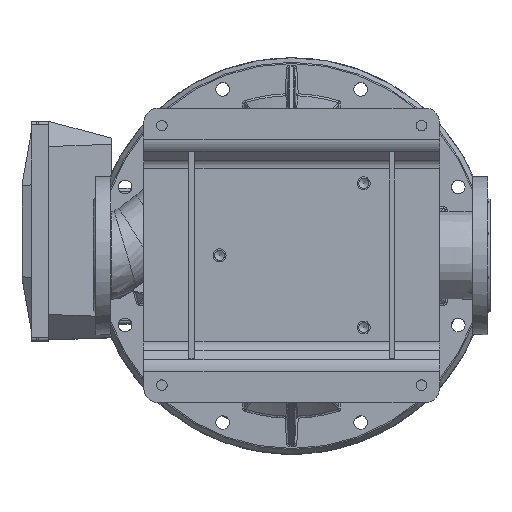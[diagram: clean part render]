
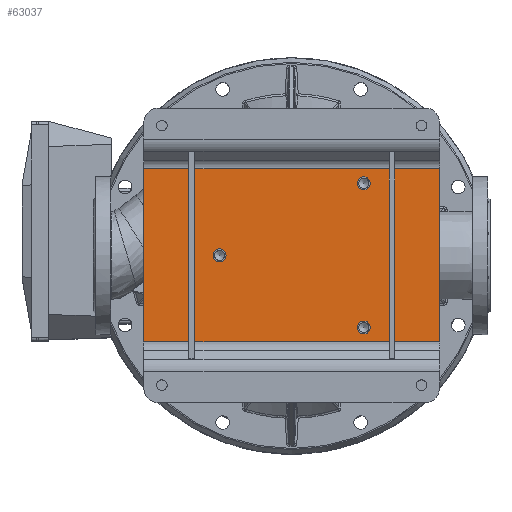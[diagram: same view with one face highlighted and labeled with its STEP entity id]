
A CAD part, top view. The second image highlights one B-rep face of the part: STEP entity #63037.
In plain terms, the highlighted planar face has unit normal (0, 0, 1) as drawn and (0, -1, 0) by its records, which use the part's own axes.
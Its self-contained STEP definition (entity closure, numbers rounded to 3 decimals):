
#1999 = VERTEX_POINT ( 'NONE', #63736 ) ;
#3575 = DIRECTION ( 'NONE',  ( 0., -1., 0. ) ) ;
#4399 = EDGE_CURVE ( 'NONE', #1999, #52443, #19354, .T. ) ;
#4715 = VECTOR ( 'NONE', #50558, 1000. ) ;
#5785 = CARTESIAN_POINT ( 'NONE',  ( 0., -8., -109. ) ) ;
#5969 = DIRECTION ( 'NONE',  ( 0., 0., -1. ) ) ;
#5994 = CARTESIAN_POINT ( 'NONE',  ( -120., -8., -205. ) ) ;
#6252 = VECTOR ( 'NONE', #52459, 1000. ) ;
#7014 = CARTESIAN_POINT ( 'NONE',  ( -120., -8., 205. ) ) ;
#7230 = EDGE_CURVE ( 'NONE', #52443, #32517, #62389, .T. ) ;
#9520 = VECTOR ( 'NONE', #56629, 1000. ) ;
#9717 = DIRECTION ( 'NONE',  ( 0., 0., -1. ) ) ;
#9969 = ORIENTED_EDGE ( 'NONE', *, *, #18208, .F. ) ;
#10833 = CARTESIAN_POINT ( 'NONE',  ( -120., -8., -205. ) ) ;
#10996 = DIRECTION ( 'NONE',  ( 0., 0., -1. ) ) ;
#12400 = DIRECTION ( 'NONE',  ( 0., 0., -1. ) ) ;
#13857 = AXIS2_PLACEMENT_3D ( 'NONE', #63603, #3575, #10996 ) ;
#15052 = FACE_OUTER_BOUND ( 'NONE', #57706, .T. ) ;
#15233 = VERTEX_POINT ( 'NONE', #32114 ) ;
#17276 = EDGE_CURVE ( 'NONE', #15233, #15233, #28990, .T. ) ;
#18208 = EDGE_CURVE ( 'NONE', #49031, #49031, #60073, .T. ) ;
#19010 = CARTESIAN_POINT ( 'NONE',  ( -120., -8., 205. ) ) ;
#19354 = LINE ( 'NONE', #19010, #6252 ) ;
#20039 = VECTOR ( 'NONE', #5969, 1000. ) ;
#20131 = CARTESIAN_POINT ( 'NONE',  ( -100., -8., 100. ) ) ;
#20308 = CARTESIAN_POINT ( 'NONE',  ( 100., -8., 100. ) ) ;
#21071 = ORIENTED_EDGE ( 'NONE', *, *, #7230, .F. ) ;
#22776 = EDGE_CURVE ( 'NONE', #31872, #1999, #24241, .T. ) ;
#24241 = LINE ( 'NONE', #7014, #9520 ) ;
#28754 = VERTEX_POINT ( 'NONE', #5785 ) ;
#28990 = CIRCLE ( 'NONE', #54274, 9. ) ;
#30530 = FACE_BOUND ( 'NONE', #63285, .T. ) ;
#31872 = VERTEX_POINT ( 'NONE', #10833 ) ;
#32114 = CARTESIAN_POINT ( 'NONE',  ( -100., -8., 91. ) ) ;
#32517 = VERTEX_POINT ( 'NONE', #62479 ) ;
#33290 = LINE ( 'NONE', #5994, #4715 ) ;
#33621 = ORIENTED_EDGE ( 'NONE', *, *, #4399, .F. ) ;
#34313 = CARTESIAN_POINT ( 'NONE',  ( 0., -8., -100. ) ) ;
#35058 = CARTESIAN_POINT ( 'NONE',  ( 120., -8., 205. ) ) ;
#41682 = CIRCLE ( 'NONE', #43931, 9. ) ;
#42255 = DIRECTION ( 'NONE',  ( 0., -1., 0. ) ) ;
#43931 = AXIS2_PLACEMENT_3D ( 'NONE', #34313, #45488, #12400 ) ;
#43941 = AXIS2_PLACEMENT_3D ( 'NONE', #20308, #42255, #68506 ) ;
#45198 = EDGE_CURVE ( 'NONE', #32517, #31872, #33290, .T. ) ;
#45488 = DIRECTION ( 'NONE',  ( 0., -1., 0. ) ) ;
#47432 = PLANE ( 'NONE',  #13857 ) ;
#48356 = ORIENTED_EDGE ( 'NONE', *, *, #17276, .F. ) ;
#49031 = VERTEX_POINT ( 'NONE', #65181 ) ;
#50558 = DIRECTION ( 'NONE',  ( -1., 0., 0. ) ) ;
#51320 = CARTESIAN_POINT ( 'NONE',  ( 120., -8., 205. ) ) ;
#52443 = VERTEX_POINT ( 'NONE', #51320 ) ;
#52459 = DIRECTION ( 'NONE',  ( 1., 0., 0. ) ) ;
#53220 = DIRECTION ( 'NONE',  ( 0., -1., 0. ) ) ;
#54274 = AXIS2_PLACEMENT_3D ( 'NONE', #20131, #53220, #9717 ) ;
#56629 = DIRECTION ( 'NONE',  ( 0., 0., 1. ) ) ;
#57706 = EDGE_LOOP ( 'NONE', ( #21071, #33621, #66351, #68763 ) ) ;
#58565 = FACE_BOUND ( 'NONE', #63464, .T. ) ;
#58929 = FACE_BOUND ( 'NONE', #68234, .T. ) ;
#59765 = ORIENTED_EDGE ( 'NONE', *, *, #67497, .F. ) ;
#60073 = CIRCLE ( 'NONE', #43941, 9. ) ;
#62389 = LINE ( 'NONE', #35058, #20039 ) ;
#62479 = CARTESIAN_POINT ( 'NONE',  ( 120., -8., -205. ) ) ;
#63037 = ADVANCED_FACE ( 'NONE', ( #58929, #30530, #58565, #15052 ), #47432, .T. ) ;
#63285 = EDGE_LOOP ( 'NONE', ( #59765 ) ) ;
#63464 = EDGE_LOOP ( 'NONE', ( #48356 ) ) ;
#63603 = CARTESIAN_POINT ( 'NONE',  ( 0., -8., 0. ) ) ;
#63736 = CARTESIAN_POINT ( 'NONE',  ( -120., -8., 205. ) ) ;
#65181 = CARTESIAN_POINT ( 'NONE',  ( 100., -8., 91. ) ) ;
#66351 = ORIENTED_EDGE ( 'NONE', *, *, #22776, .F. ) ;
#67497 = EDGE_CURVE ( 'NONE', #28754, #28754, #41682, .T. ) ;
#68234 = EDGE_LOOP ( 'NONE', ( #9969 ) ) ;
#68506 = DIRECTION ( 'NONE',  ( 0., 0., -1. ) ) ;
#68763 = ORIENTED_EDGE ( 'NONE', *, *, #45198, .F. ) ;
